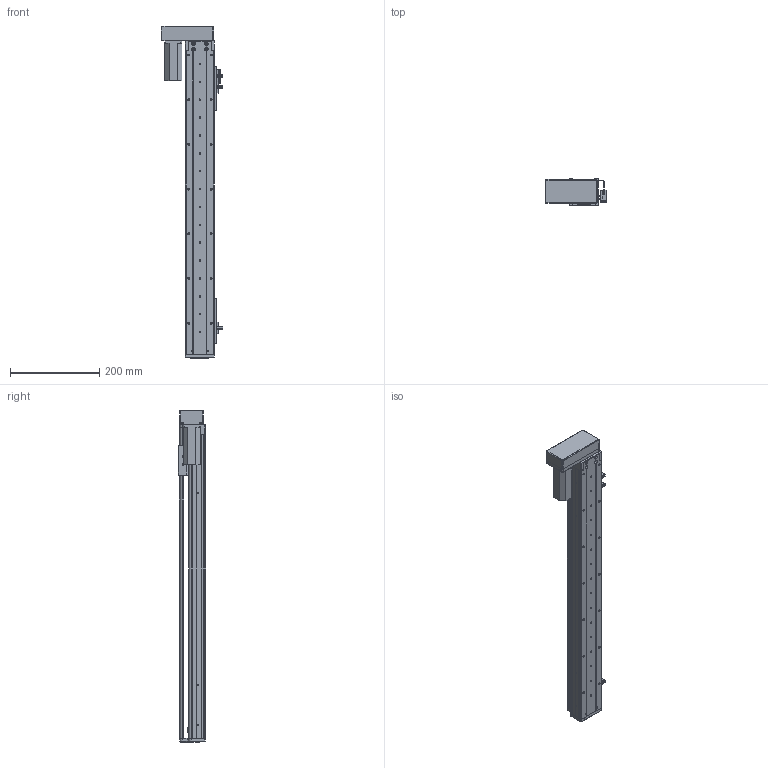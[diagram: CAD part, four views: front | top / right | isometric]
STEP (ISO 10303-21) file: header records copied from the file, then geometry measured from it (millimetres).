
FILE_DESCRIPTION (( 'STEP AP203' ), '1' );
FILE_NAME ('RY60-L1210-300-LK.SLDASM_550.step', '2021-02-20T06:54:04', ( '盈信电脑' ), ( '东莞市道滘镇水果街19号' ), 'SwSTEP 2.0', 'SolidWorks 2012', '' );
FILE_SCHEMA (( 'CONFIG_CONTROL_DESIGN' ));
Length unit declared in the file: millimetre
Products named in the file (14): RY60酘衵殏萇儂欶; RY60-L1210-300-LK.SLDASM_550; RY60转折电机端支撑座; 侂狟100W; RY60左右折电机安装板-PCD46-M4; 覜茼ん672; 滅袉蝶18-10; RY60綴裔啣; RY80俋离覜茼え; RY60-300-MGW12絳寢-LK_550; 672嫖萇羲壽假蚾釱; RY60-300倰第裔啣-LK_550; RY60臏賑輸; RY60-300倰第菁釱-LK_550
Assembly tree (19 placements, depth 2):
  RY60-L1210-300-LK.SLDASM_550
    RY60-300倰第菁釱-LK_550
    RY60-300-MGW12絳寢-LK_550
    RY60臏賑輸
    RY60-300倰第裔啣-LK_550
    672嫖萇羲壽假蚾釱  x2
    RY60綴裔啣
    覜茼ん672  x3
    RY80俋离覜茼え
    滅袉蝶18-10  x4
    RY60转折电机端支撑座
    RY60左右折电机安装板-PCD46-M4
    侂狟100W
    RY60酘衵殏萇儂欶
Bounding box: 137.9 x 61 x 743 mm (x, y, z)
Volume: 1088722.1 mm3; surface area: 532624.4 mm2
Topology: 19 solids, 19 shells, 1539 faces, 4271 edges, 2742 vertices
Faces by surface type: plane 743, cylinder 671, cone 108, bspline 17
Entity records: 46315 total; most frequent: CARTESIAN_POINT 10830, ORIENTED_EDGE 7110, DIRECTION 6999, EDGE_CURVE 3555, AXIS2_PLACEMENT_3D 2441, VERTEX_POINT 2322, VECTOR 2117, LINE 2117
